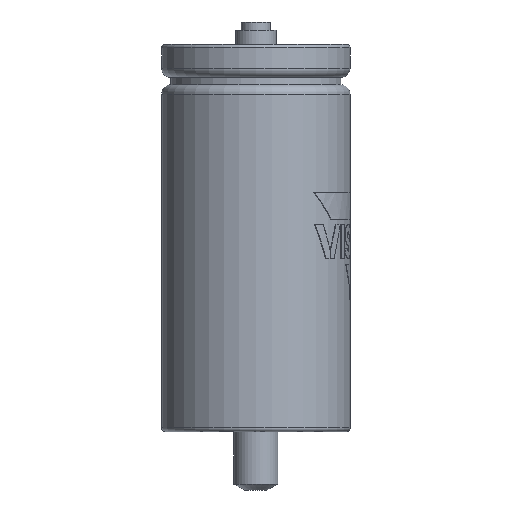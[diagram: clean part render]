
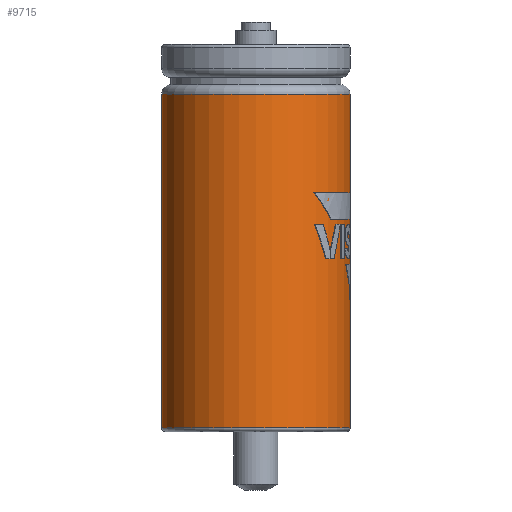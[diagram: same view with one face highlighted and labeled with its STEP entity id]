
A CAD part, left-side view. The second image highlights one B-rep face of the part: STEP entity #9715.
In plain terms, the highlighted cylindrical face has radius 25.5 mm (diameter 51 mm), a full revolution.
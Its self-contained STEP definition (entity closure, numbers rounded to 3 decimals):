
#9648 = TOROIDAL_SURFACE('',#9649,24.5,1.);
#9649 = AXIS2_PLACEMENT_3D('',#9650,#9651,#9652);
#9650 = CARTESIAN_POINT('',(0.,0.,-102.8));
#9651 = DIRECTION('',(0.,0.,1.));
#9652 = DIRECTION('',(1.,0.,0.));
#9665 = VERTEX_POINT('',#9666);
#9666 = CARTESIAN_POINT('',(25.5,0.,-102.8));
#9688 = EDGE_CURVE('',#9665,#9665,#9689,.T.);
#9689 = SURFACE_CURVE('',#9690,(#9695,#9702),.PCURVE_S1.);
#9690 = CIRCLE('',#9691,25.5);
#9691 = AXIS2_PLACEMENT_3D('',#9692,#9693,#9694);
#9692 = CARTESIAN_POINT('',(0.,0.,-102.8));
#9693 = DIRECTION('',(0.,-0.,1.));
#9694 = DIRECTION('',(1.,0.,0.));
#9695 = PCURVE('',#9648,#9696);
#9696 = DEFINITIONAL_REPRESENTATION('',(#9697),#9701);
#9697 = LINE('',#9698,#9699);
#9698 = CARTESIAN_POINT('',(0.,6.283));
#9699 = VECTOR('',#9700,1.);
#9700 = DIRECTION('',(1.,0.));
#9701 = ( GEOMETRIC_REPRESENTATION_CONTEXT(2) 
PARAMETRIC_REPRESENTATION_CONTEXT() REPRESENTATION_CONTEXT('2D SPACE',''
  ) );
#9702 = PCURVE('',#9703,#9708);
#9703 = CYLINDRICAL_SURFACE('',#9704,25.5);
#9704 = AXIS2_PLACEMENT_3D('',#9705,#9706,#9707);
#9705 = CARTESIAN_POINT('',(0.,0.,-102.8));
#9706 = DIRECTION('',(0.,0.,1.));
#9707 = DIRECTION('',(1.,0.,0.));
#9708 = DEFINITIONAL_REPRESENTATION('',(#9709),#9713);
#9709 = LINE('',#9710,#9711);
#9710 = CARTESIAN_POINT('',(0.,0.));
#9711 = VECTOR('',#9712,1.);
#9712 = DIRECTION('',(1.,0.));
#9713 = ( GEOMETRIC_REPRESENTATION_CONTEXT(2) 
PARAMETRIC_REPRESENTATION_CONTEXT() REPRESENTATION_CONTEXT('2D SPACE',''
  ) );
#9715 = ADVANCED_FACE('',(#9716),#9703,.T.);
#9716 = FACE_BOUND('',#9717,.T.);
#9717 = EDGE_LOOP('',(#9718,#9719,#9742,#9769));
#9718 = ORIENTED_EDGE('',*,*,#9688,.T.);
#9719 = ORIENTED_EDGE('',*,*,#9720,.T.);
#9720 = EDGE_CURVE('',#9665,#9721,#9723,.T.);
#9721 = VERTEX_POINT('',#9722);
#9722 = CARTESIAN_POINT('',(25.5,0.,-12.5));
#9723 = SEAM_CURVE('',#9724,(#9728,#9735),.PCURVE_S1.);
#9724 = LINE('',#9725,#9726);
#9725 = CARTESIAN_POINT('',(25.5,0.,-102.8));
#9726 = VECTOR('',#9727,1.);
#9727 = DIRECTION('',(0.,0.,1.));
#9728 = PCURVE('',#9703,#9729);
#9729 = DEFINITIONAL_REPRESENTATION('',(#9730),#9734);
#9730 = LINE('',#9731,#9732);
#9731 = CARTESIAN_POINT('',(0.,0.));
#9732 = VECTOR('',#9733,1.);
#9733 = DIRECTION('',(0.,1.));
#9734 = ( GEOMETRIC_REPRESENTATION_CONTEXT(2) 
PARAMETRIC_REPRESENTATION_CONTEXT() REPRESENTATION_CONTEXT('2D SPACE',''
  ) );
#9735 = PCURVE('',#9703,#9736);
#9736 = DEFINITIONAL_REPRESENTATION('',(#9737),#9741);
#9737 = LINE('',#9738,#9739);
#9738 = CARTESIAN_POINT('',(6.283,0.));
#9739 = VECTOR('',#9740,1.);
#9740 = DIRECTION('',(0.,1.));
#9741 = ( GEOMETRIC_REPRESENTATION_CONTEXT(2) 
PARAMETRIC_REPRESENTATION_CONTEXT() REPRESENTATION_CONTEXT('2D SPACE',''
  ) );
#9742 = ORIENTED_EDGE('',*,*,#9743,.F.);
#9743 = EDGE_CURVE('',#9721,#9721,#9744,.T.);
#9744 = SURFACE_CURVE('',#9745,(#9750,#9757),.PCURVE_S1.);
#9745 = CIRCLE('',#9746,25.5);
#9746 = AXIS2_PLACEMENT_3D('',#9747,#9748,#9749);
#9747 = CARTESIAN_POINT('',(0.,0.,-12.5));
#9748 = DIRECTION('',(0.,-0.,1.));
#9749 = DIRECTION('',(1.,0.,0.));
#9750 = PCURVE('',#9703,#9751);
#9751 = DEFINITIONAL_REPRESENTATION('',(#9752),#9756);
#9752 = LINE('',#9753,#9754);
#9753 = CARTESIAN_POINT('',(0.,90.3));
#9754 = VECTOR('',#9755,1.);
#9755 = DIRECTION('',(1.,0.));
#9756 = ( GEOMETRIC_REPRESENTATION_CONTEXT(2) 
PARAMETRIC_REPRESENTATION_CONTEXT() REPRESENTATION_CONTEXT('2D SPACE',''
  ) );
#9757 = PCURVE('',#9758,#9763);
#9758 = TOROIDAL_SURFACE('',#9759,23.,2.5);
#9759 = AXIS2_PLACEMENT_3D('',#9760,#9761,#9762);
#9760 = CARTESIAN_POINT('',(0.,0.,-12.5));
#9761 = DIRECTION('',(0.,0.,1.));
#9762 = DIRECTION('',(1.,0.,0.));
#9763 = DEFINITIONAL_REPRESENTATION('',(#9764),#9768);
#9764 = LINE('',#9765,#9766);
#9765 = CARTESIAN_POINT('',(0.,0.));
#9766 = VECTOR('',#9767,1.);
#9767 = DIRECTION('',(1.,0.));
#9768 = ( GEOMETRIC_REPRESENTATION_CONTEXT(2) 
PARAMETRIC_REPRESENTATION_CONTEXT() REPRESENTATION_CONTEXT('2D SPACE',''
  ) );
#9769 = ORIENTED_EDGE('',*,*,#9720,.F.);
